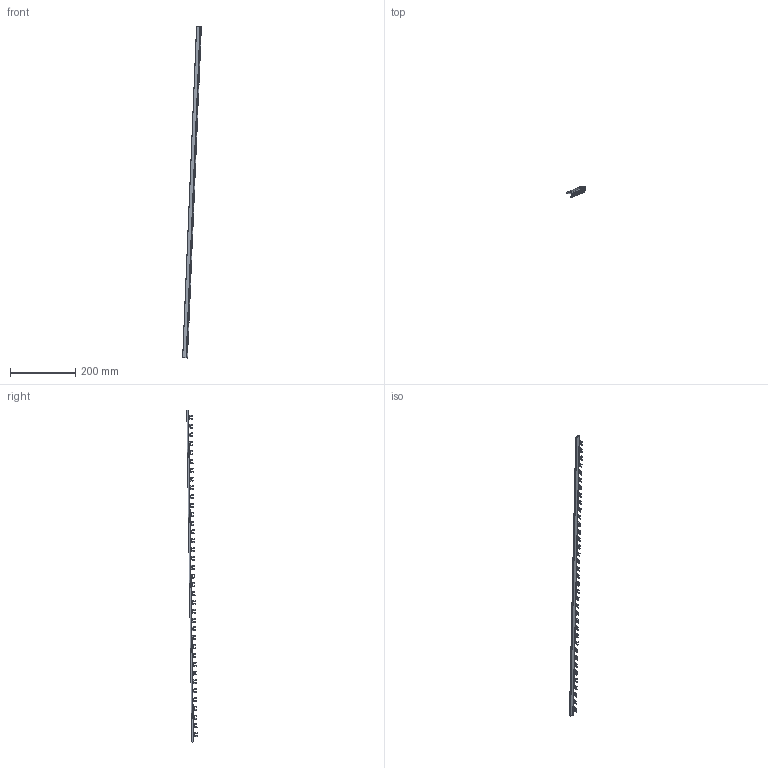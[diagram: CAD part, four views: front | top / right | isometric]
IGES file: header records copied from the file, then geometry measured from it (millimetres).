
Start section: SolidWorks IGES file using analytic representation for surfaces
Global section: file name: U:\14_RD\05_Technical_office\04_Office\Hrdinova\3D modely - IGES\Minia\G1L-27-1000-24.IGS; native system: SolidWorks 2011; preprocessor: SolidWorks 2011; author: adhrja3; date: 170615.074102; units: millimetre
Bounding box: 57.25 x 31.7 x 1015.64 mm (x, y, z)
Surface area: 97095.8 mm2 (no closed solid volume)
Topology: 0 solids, 0 shells, 653 faces, 6502 edges, 6498 vertices
Faces by surface type: bspline 343, revolution 310
